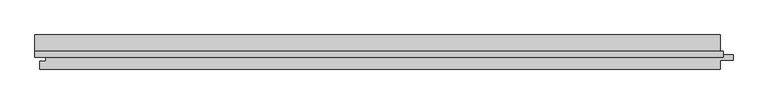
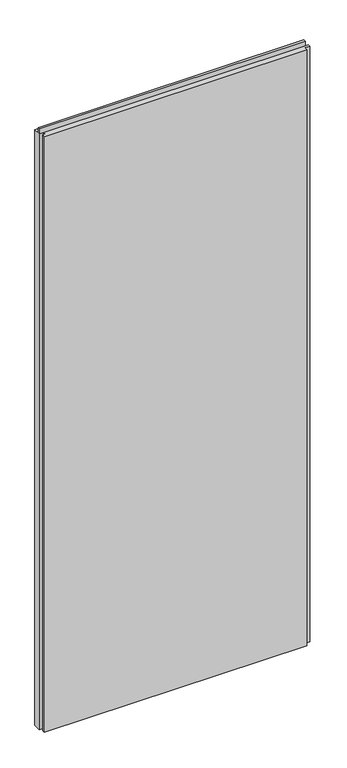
"""IFC4 building model written with IfcOpenShell, lengths in millimetres: plate geometry, Trimo_Qbiss Screen_Normal Panel-VERTICAL : HR - FB."""

from ifc_helpers import new_model, si_unit, frame, origin, place, context, project, spatial, polyline, outline, extrude, source, transform, mapped, element, save


def plate_9e6a310b(model_context):
    return source(origin(), model_context, "Body", "SweptSolid", [
        extrude(outline(polyline([(-500.0, 93.9), (-500.0, 102.6), (500.0, 102.6), (500.0, 93.9), (-500.0, 93.9)])), frame((0.0, 0.0, 2390.5), z_axis=(0.0, 0.0, 1.0), x_axis=(1.0, 0.0, 0.0)), (0.0, 0.0, 1.0), 19.0),
        extrude(outline(polyline([(496.0, 97.0), (514.5, 97.0), (514.5, 89.0), (496.0, 89.0), (496.0, 76.0), (-493.0, 76.0), (-493.0, 88.0), (-484.5, 88.0), (-484.5, 98.0), (-500.0, 98.0), (-500.0, 126.0), (496.0, 126.0), (496.0, 97.0)])), frame((0.0, 0.0, 12.5), z_axis=(0.0, 0.0, 1.0), x_axis=(1.0, 0.0, 0.0)), (0.0, 0.0, 1.0), 2375.0),
    ])


if __name__ == "__main__":
    model = new_model("IFC4")
    model_context = context("Model", 3, world=origin())
    ifc_project = project(units=[si_unit("LENGTHUNIT", "METRE", prefix="MILLI")], contexts=[model_context])
    site = spatial("IfcSite", under=ifc_project)
    building = spatial("IfcBuilding", under=site)
    placement = place(None, origin())
    plate_shape = plate_9e6a310b(model_context)
    element("IfcPlate", 1, ObjectType="Trimo_Qbiss Screen_Normal Panel-VERTICAL : HR - FB", at=placement, inside=building, context=model_context, shape_type="MappedRepresentation", body=[
        mapped(plate_shape, transform((0.0, 0.0, 0.0), x_axis=(1.0, 0.0, 0.0), y_axis=(0.0, 1.0, 0.0), z_axis=(0.0, 0.0, 1.0))),
    ])
    save(model, "model.ifc")
